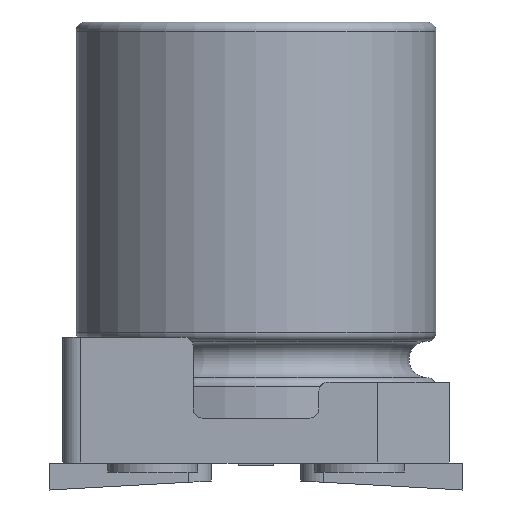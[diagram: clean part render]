
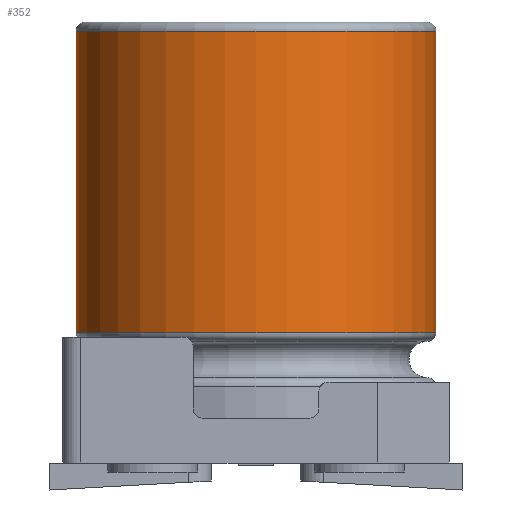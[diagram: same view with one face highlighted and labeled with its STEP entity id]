
A CAD part, front view. The second image highlights one B-rep face of the part: STEP entity #352.
In plain terms, the highlighted cylindrical face has radius 2 mm (diameter 4 mm), a full revolution.
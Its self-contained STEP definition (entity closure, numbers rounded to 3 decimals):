
#204=CYLINDRICAL_SURFACE('',#1591,2.);
#352=ADVANCED_FACE('',(#436,#437),#204,.T.);
#436=FACE_BOUND('',#512,.T.);
#437=FACE_BOUND('',#513,.T.);
#512=EDGE_LOOP('',(#873));
#513=EDGE_LOOP('',(#874));
#580=CIRCLE('',#1589,2.);
#581=CIRCLE('',#1590,2.);
#873=ORIENTED_EDGE('',*,*,#1226,.T.);
#874=ORIENTED_EDGE('',*,*,#1227,.T.);
#1055=VERTEX_POINT('',#2445);
#1056=VERTEX_POINT('',#2447);
#1226=EDGE_CURVE('',#1055,#1055,#580,.T.);
#1227=EDGE_CURVE('',#1056,#1056,#581,.T.);
#1589=AXIS2_PLACEMENT_3D('',#2444,#1904,#1905);
#1590=AXIS2_PLACEMENT_3D('',#2446,#1906,#1907);
#1591=AXIS2_PLACEMENT_3D('',#2448,#1908,#1909);
#1904=DIRECTION('',(0.,0.,1.));
#1905=DIRECTION('',(1.,0.,0.));
#1906=DIRECTION('',(0.,0.,-1.));
#1907=DIRECTION('',(-1.,0.,0.));
#1908=DIRECTION('',(0.,0.,-1.));
#1909=DIRECTION('',(-1.,0.,0.));
#2444=CARTESIAN_POINT('',(0.,0.,1.45));
#2445=CARTESIAN_POINT('',(2.,0.,1.45));
#2446=CARTESIAN_POINT('',(0.,0.,4.8));
#2447=CARTESIAN_POINT('',(-2.,0.,4.8));
#2448=CARTESIAN_POINT('',(0.,0.,0.));
